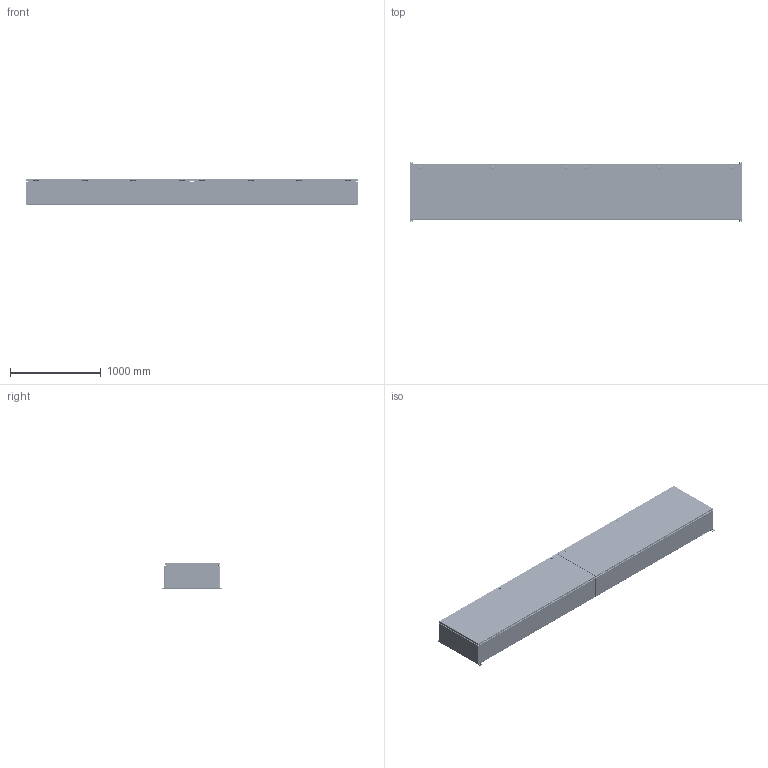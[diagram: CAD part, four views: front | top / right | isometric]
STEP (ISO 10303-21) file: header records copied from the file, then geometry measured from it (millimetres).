
FILE_DESCRIPTION(/* description */ ('1412BTSSCU 800A - 3 Wires x 144" Assembly'),/* implementation_level */ '2;1');
FILE_NAME(/* name */ 'C:\Vault_Workspace\Inventor_Dwg\BoxCad\Result\1412BTSSCU12803DT\e-mail\3D\1412BTSSCU12803DT.stp',/* time_stamp */ '2022-11-03T15:35:21-04:00',/* author */ ('BoxCad'),/* organization */ (''),/* preprocessor_version */ 'ST-DEVELOPER v18.1',/* originating_system */ 'Autodesk Inventor 2020',/* authorisation */ '');
FILE_SCHEMA (('AUTOMOTIVE_DESIGN { 1 0 10303 214 3 1 1 }'));
Products named in the file (62): 1412BTSSCU12803DT; 1412BTSSCU12803DTB; 1412BTSSCU12803DTB-P; 1412BTSSCU12803DTE-P; STK-Q-16020; iLogic_STK-G-00701; STK-Q-00260; STK-Q-07220-1; STK-Q-07220-A; STK-Q-07220-B; 1412BTSSCU12803DTC; 1412BTSSCU12803DTC-P; 1412BTSSCU12803DTF-P; 1412BTSSCU12803DTG; STK-Q-16095; STK-K-09850-1; STK-Q-33019; STK-Q-90111; STK-Q-40096; STK-Q-63412; STK-S-00100; STK-A-880SCQ4-SLSS6-1; STK-A-880SCQ4-SLSS6-2; STK-A-880SCQ4-SLSS6-3; STK-A-880SCQ4-SLSS6-4; STK-A-880SCQ4-SLSS6-5; STK-A-880SCQ4-SLSS6-6; STK-Q-70621; STK-Q-70631; STK-Q-78145; STK-Q-03200; STK-Q-78125; STK-Q-90390; STK-Q-78160; STK-Q-78141; 1412BTSSCU12803DTIP1; 1412BTSSCU12803DTIP1-P; 1412BTSSCU12803DTIP2; 1412BTSSCU12803DTIP2-P; STK-P-02401S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
Assembly tree (209 placements, depth 4):
  1412BTSSCU12803DT
    1412BTSSCU12803DTB
      1412BTSSCU12803DTB-P
      1412BTSSCU12803DTE-P
      STK-Q-16095  x2
      STK-Q-16020  x12
      iLogic_STK-G-00701
      STK-Q-00260  x10
      STK-Q-07220-1  x10
        STK-Q-07220-A
        STK-Q-07220-B
      STK-S-00100
    1412BTSSCU12803DTC
      1412BTSSCU12803DTC-P
      1412BTSSCU12803DTF-P
      1412BTSSCU12803DTG  x2
      STK-Q-16095  x2
      STK-K-09850-1  x8
        STK-Q-33019
        STK-Q-90111
        STK-Q-40096
        STK-Q-63412
      STK-S-00100
      STK-A-880SCQ4-SLSS6-1
        STK-Q-70621
        STK-Q-70631
        STK-Q-78145
        STK-Q-03200
        STK-Q-78125
        STK-Q-90390
        STK-Q-78160
        STK-Q-78141
      STK-A-880SCQ4-SLSS6-2
        STK-Q-70621
        STK-Q-70631
        STK-Q-78145
        STK-Q-03200
        STK-Q-78125
        STK-Q-90390
        STK-Q-78160
        STK-Q-78141
      STK-A-880SCQ4-SLSS6-3
        STK-Q-70621
        STK-Q-70631
        STK-Q-78145
        STK-Q-03200
        STK-Q-78125
        STK-Q-90390
        STK-Q-78160
        STK-Q-78141
      STK-A-880SCQ4-SLSS6-4
        STK-Q-70621
        STK-Q-70631
        STK-Q-78145
        STK-Q-03200
        STK-Q-78125
        STK-Q-90390
        STK-Q-78160
        STK-Q-78141
      STK-A-880SCQ4-SLSS6-5
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Bounding box: 3657.6 x 666.75 x 294.2 mm (x, y, z)
Volume: 20794307.2 mm3; surface area: 19407438.3 mm2
Topology: 327 solids, 327 shells, 44904 faces, 118135 edges, 73824 vertices
Faces by surface type: plane 16108, bspline 12878, cylinder 11229, torus 3183, sphere 1000, cone 506
Full cylindrical faces by diameter (mm): 0.75 x16, 0.762 x16, 1 x32, 1.1 x32, 3.2 x16, 4.5 x60, 4.85 x64, 4.917 x8, 4.95 x16, 5 x10, 5.1 x96, 5.105 x54, 5.9 x246, 6.65 x15, 6.655 x12, 6.8 x10, 6.85 x100, 7.366 x16, 7.8 x615, 8 x64, 8.25 x30, 8.6 x12, 9.5 x10, 9.6 x6, 9.7 x48, 9.906 x4, 10 x14, 10.312 x2, 11.5 x30, 12 x23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
Entity records: 232390 total; most frequent: CARTESIAN_POINT 90999, ORIENTED_EDGE 31330, DIRECTION 24940, EDGE_CURVE 15665, VERTEX_POINT 10016, AXIS2_PLACEMENT_3D 8571, LINE 7798, VECTOR 7798
